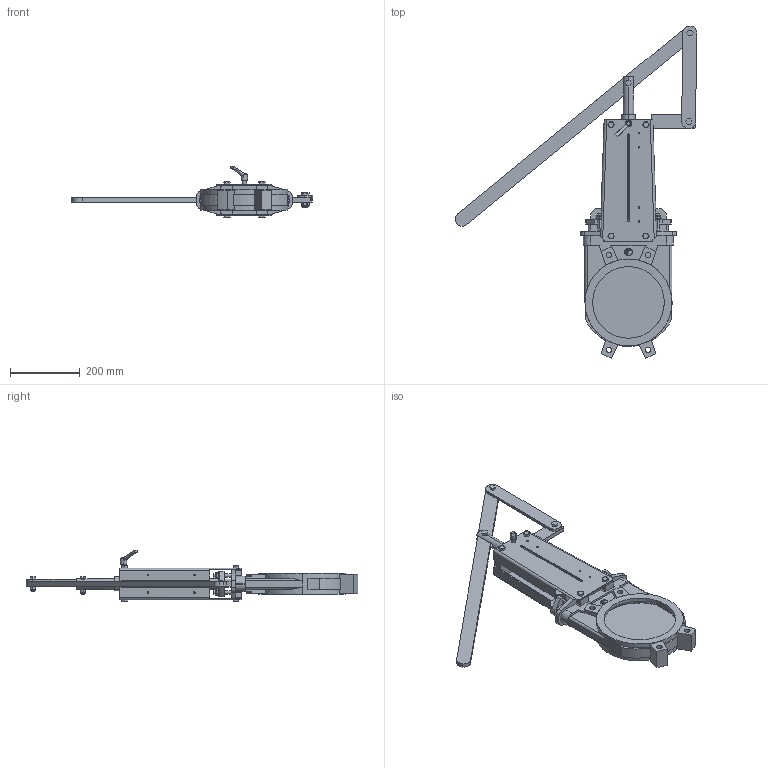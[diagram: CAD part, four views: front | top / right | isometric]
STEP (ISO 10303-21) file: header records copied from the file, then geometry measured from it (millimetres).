
FILE_DESCRIPTION (( 'STEP AP203' ), '1' );
FILE_NAME ('VG L DN200.STEP', '2012-10-03T12:34:55', ( '' ), ( '' ), 'SwSTEP 2.0', 'SolidWorks 2011', '' );
FILE_SCHEMA (( 'CONFIG_CONTROL_DESIGN' ));
Length unit declared in the file: millimetre
Products named in the file (1): VG L DN200
Bounding box: 694.46 x 954.68 x 149.34 mm (x, y, z)
Volume: 4430906.4 mm3; surface area: 838669.9 mm2
Topology: 3 solids, 10 shells, 824 faces, 2169 edges, 1409 vertices
Faces by surface type: plane 457, cylinder 229, cone 77, bspline 43, torus 18
Entity records: 28779 total; most frequent: CARTESIAN_POINT 8385, ORIENTED_EDGE 4338, DIRECTION 4067, EDGE_CURVE 2169, VERTEX_POINT 1409, AXIS2_PLACEMENT_3D 1392, VECTOR 1283, LINE 1283
